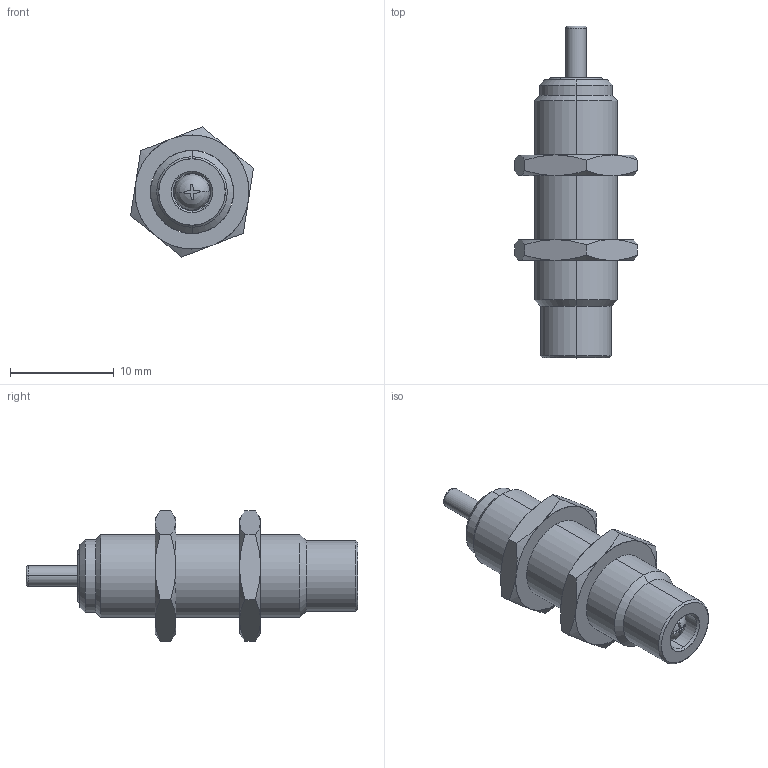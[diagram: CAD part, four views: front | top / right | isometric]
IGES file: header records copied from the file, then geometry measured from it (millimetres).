
Start section: SolidWorks IGES file using analytic representation for surfaces
Bounding box: 11.85 x 32 x 12.54 mm (x, y, z)
Surface area: 1207.3 mm2 (no closed solid volume)
Topology: 0 solids, 0 shells, 83 faces, 1074 edges, 1074 vertices
Faces by surface type: revolution 48, bspline 35
